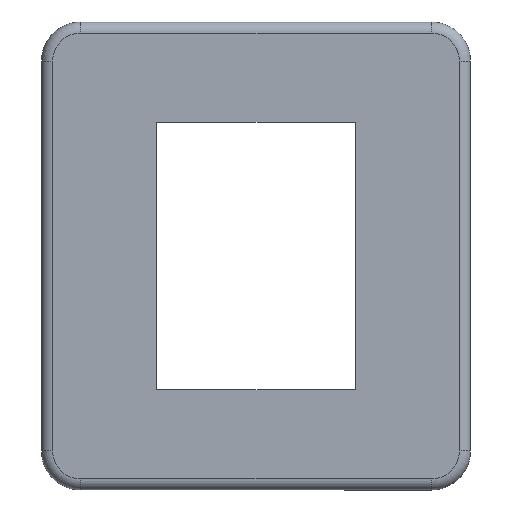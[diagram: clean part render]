
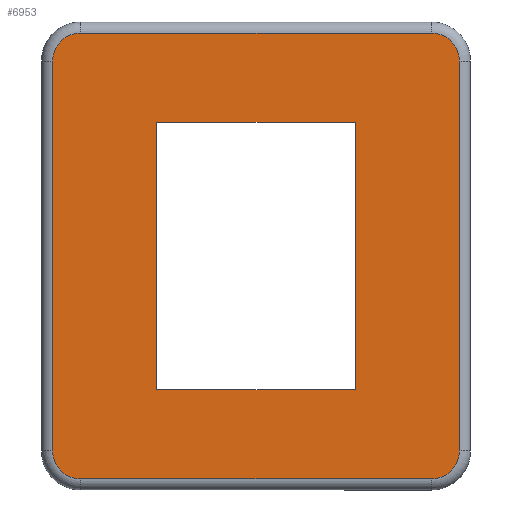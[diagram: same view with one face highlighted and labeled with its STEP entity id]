
A CAD part, front view. The second image highlights one B-rep face of the part: STEP entity #6953.
In plain terms, the highlighted planar face has unit normal (0, -1, 0).
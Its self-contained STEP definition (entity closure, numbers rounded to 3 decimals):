
#278 = DIRECTION ( 'NONE',  ( 0., 0., 1. ) ) ;
#322 = VECTOR ( 'NONE', #4616, 1000. ) ;
#339 = FACE_BOUND ( 'NONE', #2998, .T. ) ;
#379 = DIRECTION ( 'NONE',  ( 0., 0., 1. ) ) ;
#460 = ORIENTED_EDGE ( 'NONE', *, *, #8279, .T. ) ;
#586 = VERTEX_POINT ( 'NONE', #4880 ) ;
#630 = EDGE_CURVE ( 'NONE', #2479, #1710, #9000, .T. ) ;
#694 = EDGE_CURVE ( 'NONE', #1969, #6867, #3103, .T. ) ;
#788 = DIRECTION ( 'NONE',  ( -1., 0., 0. ) ) ;
#920 = AXIS2_PLACEMENT_3D ( 'NONE', #4745, #5582, #5536 ) ;
#938 = FACE_OUTER_BOUND ( 'NONE', #2055, .T. ) ;
#1067 = CARTESIAN_POINT ( 'NONE',  ( 17.85, 0., 35. ) ) ;
#1089 = EDGE_CURVE ( 'NONE', #5622, #586, #2300, .T. ) ;
#1110 = LINE ( 'NONE', #1067, #7470 ) ;
#1127 = CARTESIAN_POINT ( 'NONE',  ( 31.5, 0., 40. ) ) ;
#1128 = EDGE_CURVE ( 'NONE', #1710, #2841, #2999, .T. ) ;
#1145 = LINE ( 'NONE', #2619, #322 ) ;
#1178 = CARTESIAN_POINT ( 'NONE',  ( 36.5, 0., 35. ) ) ;
#1420 = CARTESIAN_POINT ( 'NONE',  ( 36.5, 0., -35. ) ) ;
#1710 = VERTEX_POINT ( 'NONE', #3349 ) ;
#1753 = CARTESIAN_POINT ( 'NONE',  ( -31.5, 0., -24. ) ) ;
#1969 = VERTEX_POINT ( 'NONE', #8608 ) ;
#1992 = ORIENTED_EDGE ( 'NONE', *, *, #694, .T. ) ;
#2054 = CARTESIAN_POINT ( 'NONE',  ( 31.5, 0., -40. ) ) ;
#2055 = EDGE_LOOP ( 'NONE', ( #8816, #4725, #6913, #4889, #5809, #1992, #3320, #8399 ) ) ;
#2072 = VERTEX_POINT ( 'NONE', #4639 ) ;
#2219 = EDGE_CURVE ( 'NONE', #6867, #8324, #8707, .T. ) ;
#2300 = LINE ( 'NONE', #1753, #7373 ) ;
#2326 = PLANE ( 'NONE',  #4108 ) ;
#2365 = CIRCLE ( 'NONE', #5182, 5. ) ;
#2401 = CARTESIAN_POINT ( 'NONE',  ( 31.5, 0., -35. ) ) ;
#2479 = VERTEX_POINT ( 'NONE', #3590 ) ;
#2619 = CARTESIAN_POINT ( 'NONE',  ( -17.85, 0., 35. ) ) ;
#2841 = VERTEX_POINT ( 'NONE', #7893 ) ;
#2843 = CIRCLE ( 'NONE', #920, 5. ) ;
#2998 = EDGE_LOOP ( 'NONE', ( #6565, #460, #6252, #8401 ) ) ;
#2999 = LINE ( 'NONE', #7320, #8709 ) ;
#3022 = CARTESIAN_POINT ( 'NONE',  ( -31.5, 0., 35. ) ) ;
#3103 = LINE ( 'NONE', #8732, #4383 ) ;
#3320 = ORIENTED_EDGE ( 'NONE', *, *, #2219, .T. ) ;
#3349 = CARTESIAN_POINT ( 'NONE',  ( -36.5, 0., 35. ) ) ;
#3483 = EDGE_CURVE ( 'NONE', #8324, #8659, #5706, .T. ) ;
#3574 = DIRECTION ( 'NONE',  ( 0., 0., 1. ) ) ;
#3590 = CARTESIAN_POINT ( 'NONE',  ( -31.5, 0., 40. ) ) ;
#3693 = VECTOR ( 'NONE', #788, 1000. ) ;
#3735 = EDGE_CURVE ( 'NONE', #2072, #5622, #1110, .T. ) ;
#3789 = CARTESIAN_POINT ( 'NONE',  ( -31.5, 0., 40. ) ) ;
#3807 = DIRECTION ( 'NONE',  ( 0., 1., 0. ) ) ;
#3831 = DIRECTION ( 'NONE',  ( 0., 0., -1. ) ) ;
#3894 = CARTESIAN_POINT ( 'NONE',  ( -31.5, 0., -35. ) ) ;
#3997 = CARTESIAN_POINT ( 'NONE',  ( -31.5, 0., 24. ) ) ;
#4108 = AXIS2_PLACEMENT_3D ( 'NONE', #3022, #3807, #4356 ) ;
#4217 = DIRECTION ( 'NONE',  ( 0., 0., 1. ) ) ;
#4356 = DIRECTION ( 'NONE',  ( 0., 0., 1. ) ) ;
#4378 = DIRECTION ( 'NONE',  ( -1., 0., 0. ) ) ;
#4383 = VECTOR ( 'NONE', #5326, 1000. ) ;
#4616 = DIRECTION ( 'NONE',  ( 0., 0., 1. ) ) ;
#4639 = CARTESIAN_POINT ( 'NONE',  ( 17.85, 0., 24. ) ) ;
#4718 = EDGE_CURVE ( 'NONE', #8659, #8585, #2843, .T. ) ;
#4725 = ORIENTED_EDGE ( 'NONE', *, *, #6180, .T. ) ;
#4740 = LINE ( 'NONE', #3997, #8110 ) ;
#4745 = CARTESIAN_POINT ( 'NONE',  ( 31.5, 0., 35. ) ) ;
#4880 = CARTESIAN_POINT ( 'NONE',  ( -17.85, 0., -24. ) ) ;
#4889 = ORIENTED_EDGE ( 'NONE', *, *, #1128, .T. ) ;
#5090 = LINE ( 'NONE', #3789, #3693 ) ;
#5182 = AXIS2_PLACEMENT_3D ( 'NONE', #3894, #6080, #379 ) ;
#5326 = DIRECTION ( 'NONE',  ( 1., 0., 0. ) ) ;
#5536 = DIRECTION ( 'NONE',  ( 0., 0., 1. ) ) ;
#5582 = DIRECTION ( 'NONE',  ( 0., -1., 0. ) ) ;
#5622 = VERTEX_POINT ( 'NONE', #7670 ) ;
#5706 = LINE ( 'NONE', #8549, #8804 ) ;
#5788 = DIRECTION ( 'NONE',  ( 0., -1., 0. ) ) ;
#5809 = ORIENTED_EDGE ( 'NONE', *, *, #5993, .T. ) ;
#5993 = EDGE_CURVE ( 'NONE', #2841, #1969, #2365, .T. ) ;
#6080 = DIRECTION ( 'NONE',  ( 0., -1., 0. ) ) ;
#6180 = EDGE_CURVE ( 'NONE', #8585, #2479, #5090, .T. ) ;
#6204 = VERTEX_POINT ( 'NONE', #7927 ) ;
#6252 = ORIENTED_EDGE ( 'NONE', *, *, #8671, .T. ) ;
#6565 = ORIENTED_EDGE ( 'NONE', *, *, #1089, .T. ) ;
#6835 = DIRECTION ( 'NONE',  ( 1., 0., 0. ) ) ;
#6867 = VERTEX_POINT ( 'NONE', #2054 ) ;
#6913 = ORIENTED_EDGE ( 'NONE', *, *, #630, .T. ) ;
#6953 = ADVANCED_FACE ( 'NONE', ( #339, #938 ), #2326, .F. ) ;
#7320 = CARTESIAN_POINT ( 'NONE',  ( -36.5, 0., 35. ) ) ;
#7373 = VECTOR ( 'NONE', #4378, 1000. ) ;
#7470 = VECTOR ( 'NONE', #7604, 1000. ) ;
#7604 = DIRECTION ( 'NONE',  ( 0., 0., -1. ) ) ;
#7622 = CARTESIAN_POINT ( 'NONE',  ( -31.5, 0., 35. ) ) ;
#7670 = CARTESIAN_POINT ( 'NONE',  ( 17.85, 0., -24. ) ) ;
#7671 = DIRECTION ( 'NONE',  ( 0., -1., 0. ) ) ;
#7804 = AXIS2_PLACEMENT_3D ( 'NONE', #7622, #7671, #3574 ) ;
#7893 = CARTESIAN_POINT ( 'NONE',  ( -36.5, 0., -35. ) ) ;
#7927 = CARTESIAN_POINT ( 'NONE',  ( -17.85, 0., 24. ) ) ;
#8110 = VECTOR ( 'NONE', #6835, 1000. ) ;
#8279 = EDGE_CURVE ( 'NONE', #586, #6204, #1145, .T. ) ;
#8324 = VERTEX_POINT ( 'NONE', #1420 ) ;
#8399 = ORIENTED_EDGE ( 'NONE', *, *, #3483, .T. ) ;
#8401 = ORIENTED_EDGE ( 'NONE', *, *, #3735, .T. ) ;
#8549 = CARTESIAN_POINT ( 'NONE',  ( 36.5, 0., 35. ) ) ;
#8585 = VERTEX_POINT ( 'NONE', #1127 ) ;
#8608 = CARTESIAN_POINT ( 'NONE',  ( -31.5, 0., -40. ) ) ;
#8659 = VERTEX_POINT ( 'NONE', #1178 ) ;
#8671 = EDGE_CURVE ( 'NONE', #6204, #2072, #4740, .T. ) ;
#8707 = CIRCLE ( 'NONE', #9008, 5. ) ;
#8709 = VECTOR ( 'NONE', #3831, 1000. ) ;
#8732 = CARTESIAN_POINT ( 'NONE',  ( -31.5, 0., -40. ) ) ;
#8804 = VECTOR ( 'NONE', #4217, 1000. ) ;
#8816 = ORIENTED_EDGE ( 'NONE', *, *, #4718, .T. ) ;
#9000 = CIRCLE ( 'NONE', #7804, 5. ) ;
#9008 = AXIS2_PLACEMENT_3D ( 'NONE', #2401, #5788, #278 ) ;
